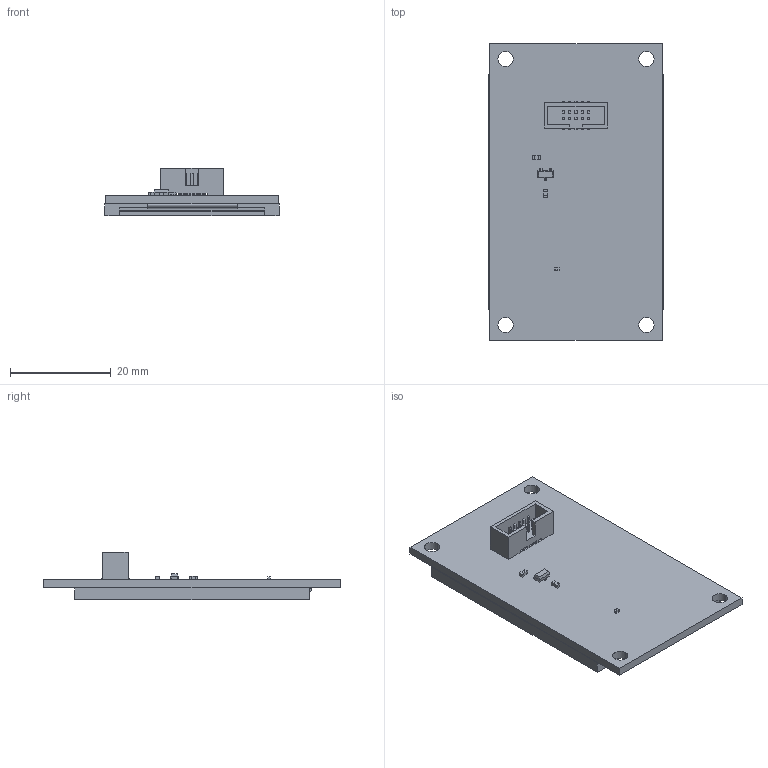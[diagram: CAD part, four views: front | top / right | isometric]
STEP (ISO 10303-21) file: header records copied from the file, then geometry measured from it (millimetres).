
FILE_DESCRIPTION (( 'STEP AP214' ), '1' );
FILE_NAME ('Gadgeteer_Display_Module_16-688380.STEP', '2017-08-16T18:54:46', ( 'ART' ), ( 'Microsoft' ), 'SwSTEP 2.0', 'SolidWorks 2015', '' );
FILE_SCHEMA (( 'AUTOMOTIVE_DESIGN' ));
Length unit declared in the file: inch
Products named in the file (1): Gadgeteer_Display_Module_16-688380
Bounding box: 34.59 x 58.93 x 9.36 mm (x, y, z)
Volume: 7000 mm3; surface area: 14304.7 mm2
Topology: 17 solids, 17 shells, 347 faces, 847 edges, 552 vertices
Faces by surface type: plane 305, cylinder 40, bspline 2
Entity records: 14800 total; most frequent: CARTESIAN_POINT 1813, ORIENTED_EDGE 1694, DIRECTION 1627, EDGE_CURVE 847, VECTOR 735, LINE 735, VERTEX_POINT 552, AXIS2_PLACEMENT_3D 446
